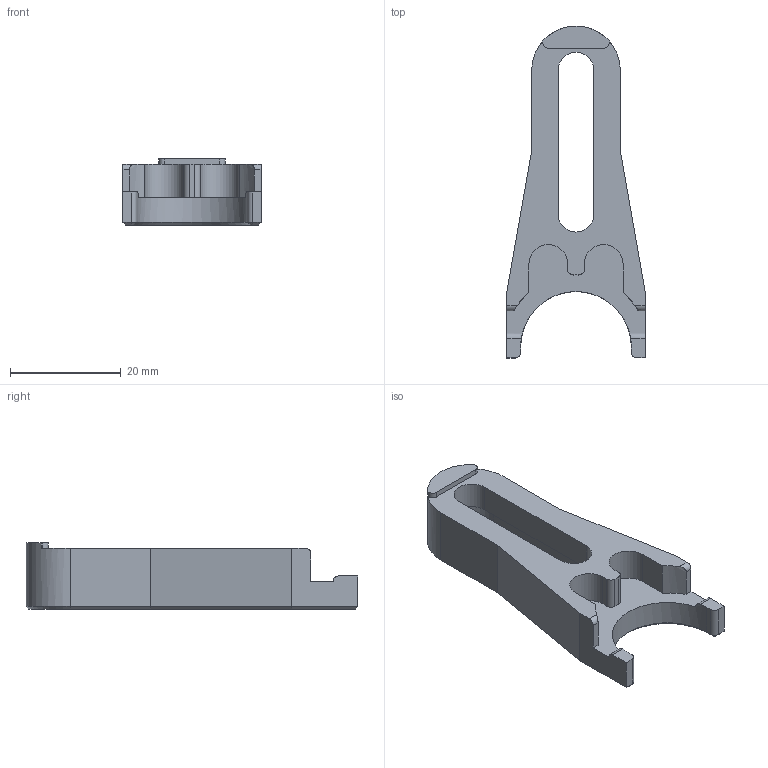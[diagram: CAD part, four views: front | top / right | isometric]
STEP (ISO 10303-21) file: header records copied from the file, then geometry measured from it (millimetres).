
FILE_DESCRIPTION(/* description */ (''),/* implementation_level */ '2;1');
FILE_NAME(/* name */ 'U:\KONSTRUKTORIAI\DOKUMENTACIJA\Systems\3UTC.01-MIM\STEP\3UTC.01-MIM.stp',/* time_stamp */ '2017-03-02T08:31:35+02:00',/* author */ ('dsgn32'),/* organization */ (''),/* preprocessor_version */ 'ST-DEVELOPER v15.2',/* originating_system */ 'Autodesk Inventor 2014',/* authorisation */ '');
FILE_SCHEMA (('AUTOMOTIVE_DESIGN { 1 0 10303 214 3 1 1 }'));
Length unit declared in the file: millimetre
Products named in the file (1): 3UTC.01-MIM
Bounding box: 25 x 60 x 12 mm (x, y, z)
Volume: 6007 mm3; surface area: 4211.4 mm2
Topology: 1 solids, 1 shells, 193 faces, 525 edges, 344 vertices
Faces by surface type: plane 96, bspline 70, cylinder 21, cone 6
Entity records: 6672 total; most frequent: CARTESIAN_POINT 2219, ORIENTED_EDGE 1050, DIRECTION 677, EDGE_CURVE 525, VERTEX_POINT 344, LINE 333, VECTOR 333, EDGE_LOOP 205
